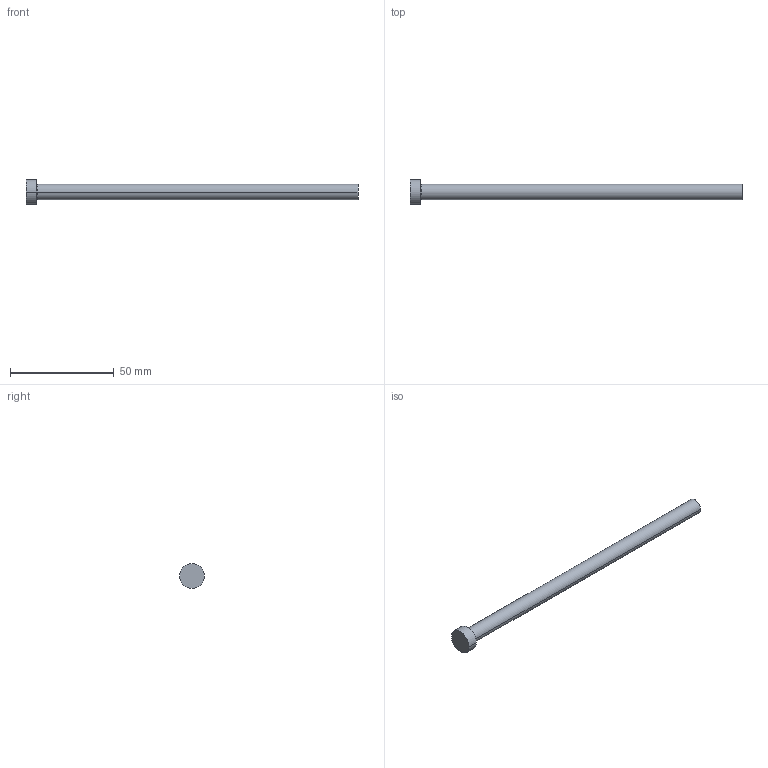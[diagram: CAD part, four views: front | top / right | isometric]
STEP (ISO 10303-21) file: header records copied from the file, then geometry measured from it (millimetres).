
FILE_DESCRIPTION (( 'STEP AP214' ), '1' );
FILE_NAME ('A-7,5x160.STEP', '2020-05-29T15:44:43', ( 'August' ), ( '' ), 'SwSTEP 2.0', 'SolidWorks 2018', '' );
FILE_SCHEMA (( 'AUTOMOTIVE_DESIGN' ));
Length unit declared in the file: millimetre
Products named in the file (1): A-7,5x160
Bounding box: 160 x 12 x 12 mm (x, y, z)
Volume: 7414.5 mm3; surface area: 4061.8 mm2
Topology: 1 solids, 1 shells, 9 faces, 16 edges, 10 vertices
Faces by surface type: cylinder 4, plane 3, torus 2
Entity records: 260 total; most frequent: DIRECTION 48, CARTESIAN_POINT 36, ORIENTED_EDGE 32, AXIS2_PLACEMENT_3D 22, EDGE_CURVE 16, CIRCLE 12, EDGE_LOOP 10, VERTEX_POINT 10
